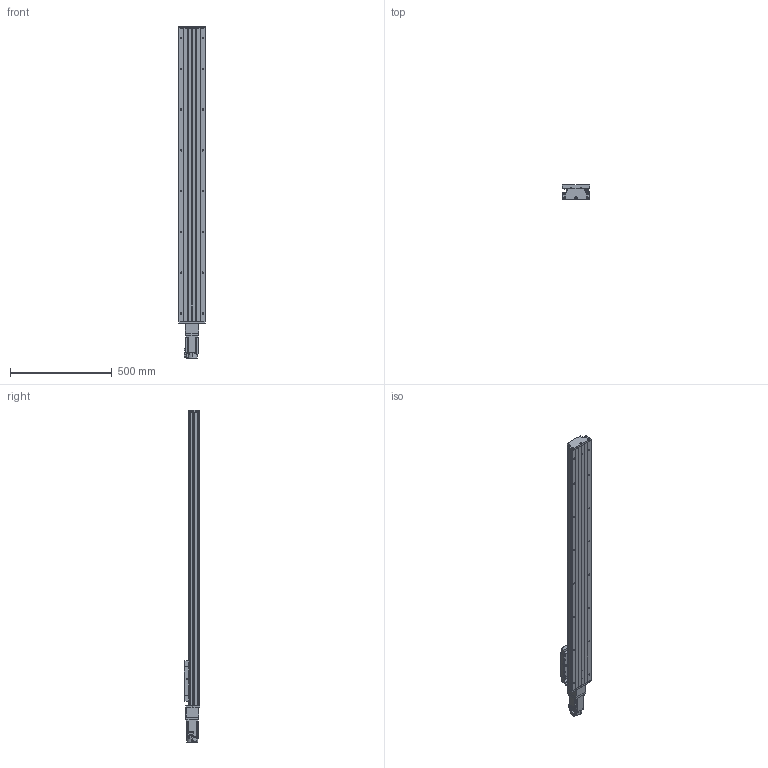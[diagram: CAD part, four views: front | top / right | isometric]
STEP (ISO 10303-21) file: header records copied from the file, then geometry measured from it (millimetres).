
FILE_DESCRIPTION (( 'STEP AP203' ), '1' );
FILE_NAME ('GTH14-1200-BC-M40-C4.step', '2023-06-30T08:32:34', ( '微软用户' ), ( '微软中国' ), 'SwSTEP 2.0', 'SolidWorks 2020', '' );
FILE_SCHEMA (( 'CONFIG_CONTROL_DESIGN' ));
Length unit declared in the file: millimetre
Products named in the file (20): GTH14-002_GTH14-002; EE_SX911P_R; CTHA86-013; GTH14-004; CTHA60-016; CTHA86-027-1; GTH14-005; GBT 70.1-M3℅5; HG-KN43J-S100; GB1155-6X6; GBT77-2000 M3×3; GBT 70.3-M3℅8; GBT70.1 M5℅16; GTH14-031; GTH14-1200-BC-M40-C4; GBT 70.2-M3¡Á5_M3¡Á6; す晦芛蹟隊 M3℅5; GTH14-001_1200; CTHA60-017; CTHA86-006-1_M40
Assembly tree (57 placements, depth 2):
  GTH14-1200-BC-M40-C4
    GTH14-001_1200
    GTH14-002_GTH14-002
    GTH14-004
    GTH14-005
    GB1155-6X6  x2
    GBT70.1 M5℅16  x10
    GBT 70.2-M3¡Á5_M3¡Á6  x8
    CTHA60-017  x3
    EE_SX911P_R  x3
    CTHA60-016  x2
    GBT 70.1-M3℅5  x6
    GBT77-2000 M3×3  x6
    GTH14-031
    す晦芛蹟隊 M3℅5  x6
    CTHA86-006-1_M40
    CTHA86-013
    CTHA86-027-1
    HG-KN43J-S100
    GBT 70.3-M3℅8  x2
Bounding box: 135 x 78 x 1628.7 mm (x, y, z)
Volume: 8009657.8 mm3; surface area: 1216942.5 mm2
Topology: 60 solids, 60 shells, 2444 faces, 5829 edges, 3602 vertices
Faces by surface type: plane 1308, cylinder 672, cone 304, torus 120, sphere 20, bspline 20
Entity records: 45344 total; most frequent: CARTESIAN_POINT 10047, DIRECTION 6696, ORIENTED_EDGE 6542, EDGE_CURVE 3271, AXIS2_PLACEMENT_3D 2295, LINE 2106, VECTOR 2106, VERTEX_POINT 2070
